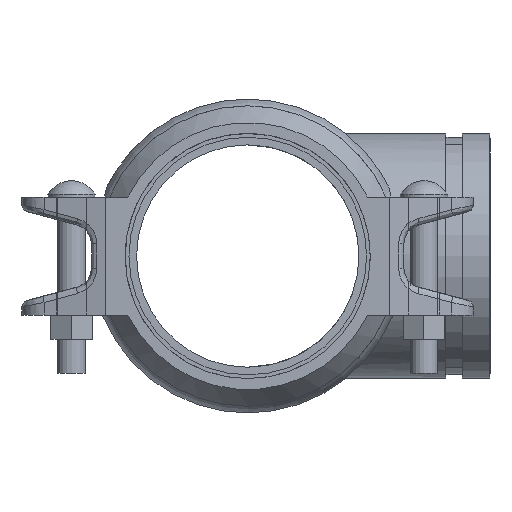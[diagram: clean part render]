
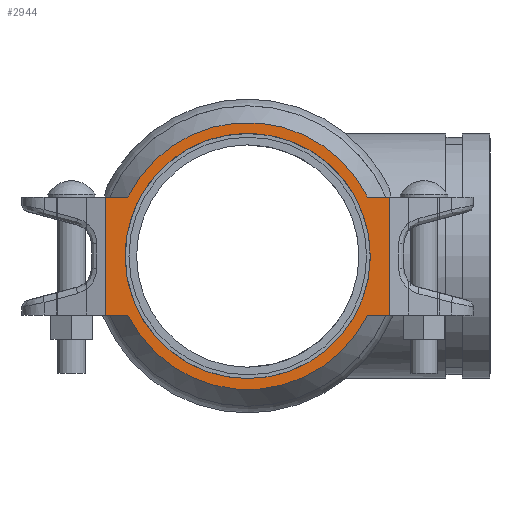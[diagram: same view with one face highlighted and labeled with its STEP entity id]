
A CAD part, left-side view. The second image highlights one B-rep face of the part: STEP entity #2944.
In plain terms, the highlighted planar face has unit normal (-1, 0, 0) as drawn and (0, 0, -1) by its records, which use the part's own axes.
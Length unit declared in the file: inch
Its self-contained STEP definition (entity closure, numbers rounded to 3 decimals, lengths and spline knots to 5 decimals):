
#162=FACE_BOUND('',#557,.T.);
#227=PLANE('',#3356);
#376=FACE_OUTER_BOUND('',#556,.T.);
#556=EDGE_LOOP('',(#2504,#2505,#2506,#2507,#2508,#2509,#2510,#2511));
#557=EDGE_LOOP('',(#2512,#2513));
#610=LINE('',#4741,#787);
#708=LINE('',#5407,#885);
#739=LINE('',#5584,#916);
#743=LINE('',#5630,#920);
#744=LINE('',#5641,#921);
#746=LINE('',#5657,#923);
#787=VECTOR('',#3665,0.3937);
#885=VECTOR('',#4011,0.3937);
#916=VECTOR('',#4114,0.3937);
#920=VECTOR('',#4126,0.3937);
#921=VECTOR('',#4129,0.3937);
#923=VECTOR('',#4133,0.3937);
#1049=CIRCLE('',#3340,3.0315);
#1056=CIRCLE('',#3355,3.0315);
#1057=CIRCLE('',#3357,2.7815);
#1058=CIRCLE('',#3358,2.7815);
#1166=VERTEX_POINT('',#4738);
#1167=VERTEX_POINT('',#4740);
#1297=VERTEX_POINT('',#5404);
#1298=VERTEX_POINT('',#5406);
#1319=VERTEX_POINT('',#5582);
#1321=VERTEX_POINT('',#5592);
#1326=VERTEX_POINT('',#5637);
#1328=VERTEX_POINT('',#5652);
#1333=VERTEX_POINT('',#5711);
#1334=VERTEX_POINT('',#5712);
#1472=EDGE_CURVE('',#1167,#1166,#610,.T.);
#1652=EDGE_CURVE('',#1297,#1298,#708,.T.);
#1702=EDGE_CURVE('',#1297,#1319,#739,.T.);
#1712=EDGE_CURVE('',#1167,#1321,#743,.T.);
#1715=EDGE_CURVE('',#1326,#1166,#744,.T.);
#1720=EDGE_CURVE('',#1328,#1319,#746,.T.);
#1725=EDGE_CURVE('',#1326,#1298,#1049,.T.);
#1732=EDGE_CURVE('',#1328,#1321,#1056,.T.);
#1733=EDGE_CURVE('',#1333,#1334,#1057,.T.);
#1734=EDGE_CURVE('',#1334,#1333,#1058,.T.);
#2504=ORIENTED_EDGE('',*,*,#1732,.T.);
#2505=ORIENTED_EDGE('',*,*,#1712,.F.);
#2506=ORIENTED_EDGE('',*,*,#1472,.T.);
#2507=ORIENTED_EDGE('',*,*,#1715,.F.);
#2508=ORIENTED_EDGE('',*,*,#1725,.T.);
#2509=ORIENTED_EDGE('',*,*,#1652,.F.);
#2510=ORIENTED_EDGE('',*,*,#1702,.T.);
#2511=ORIENTED_EDGE('',*,*,#1720,.F.);
#2512=ORIENTED_EDGE('',*,*,#1733,.F.);
#2513=ORIENTED_EDGE('',*,*,#1734,.F.);
#2944=ADVANCED_FACE('',(#376,#162),#227,.T.);
#3340=AXIS2_PLACEMENT_3D('',#5694,#4140,#4141);
#3355=AXIS2_PLACEMENT_3D('',#5709,#4170,#4171);
#3356=AXIS2_PLACEMENT_3D('',#5710,#4172,#4173);
#3357=AXIS2_PLACEMENT_3D('',#5713,#4174,#4175);
#3358=AXIS2_PLACEMENT_3D('',#5714,#4176,#4177);
#3665=DIRECTION('',(0.,-1.,0.));
#4011=DIRECTION('',(1.,0.,0.));
#4114=DIRECTION('',(0.,1.,0.));
#4126=DIRECTION('',(-1.,0.,0.));
#4129=DIRECTION('',(1.,0.,0.));
#4133=DIRECTION('',(-1.,0.,0.));
#4140=DIRECTION('center_axis',(0.,0.,-1.));
#4141=DIRECTION('ref_axis',(-1.,0.,0.));
#4170=DIRECTION('center_axis',(0.,0.,-1.));
#4171=DIRECTION('ref_axis',(-1.,0.,0.));
#4172=DIRECTION('center_axis',(0.,0.,-1.));
#4173=DIRECTION('ref_axis',(1.,0.,0.));
#4174=DIRECTION('center_axis',(0.,0.,-1.));
#4175=DIRECTION('ref_axis',(-1.,0.,0.));
#4176=DIRECTION('center_axis',(0.,0.,-1.));
#4177=DIRECTION('ref_axis',(-1.,0.,0.));
#4738=CARTESIAN_POINT('',(3.225,-1.34,-1.125));
#4740=CARTESIAN_POINT('',(3.225,1.34,-1.125));
#4741=CARTESIAN_POINT('',(3.225,0.,-1.125));
#5404=CARTESIAN_POINT('',(-3.225,-1.34,-1.125));
#5406=CARTESIAN_POINT('',(-2.71926,-1.34,-1.125));
#5407=CARTESIAN_POINT('',(3.225,-1.34,-1.125));
#5582=CARTESIAN_POINT('',(-3.225,1.34,-1.125));
#5584=CARTESIAN_POINT('',(-3.225,0.,-1.125));
#5592=CARTESIAN_POINT('',(2.71926,1.34,-1.125));
#5630=CARTESIAN_POINT('',(3.225,1.34,-1.125));
#5637=CARTESIAN_POINT('',(2.71926,-1.34,-1.125));
#5641=CARTESIAN_POINT('',(3.225,-1.34,-1.125));
#5652=CARTESIAN_POINT('',(-2.71926,1.34,-1.125));
#5657=CARTESIAN_POINT('',(3.225,1.34,-1.125));
#5694=CARTESIAN_POINT('Origin',(0.,0.,-1.125));
#5709=CARTESIAN_POINT('Origin',(0.,0.,-1.125));
#5710=CARTESIAN_POINT('Origin',(0.,-2.7815,-1.125));
#5711=CARTESIAN_POINT('',(2.43745,-1.34,-1.125));
#5712=CARTESIAN_POINT('',(0.,2.7815,-1.125));
#5713=CARTESIAN_POINT('Origin',(0.,0.,-1.125));
#5714=CARTESIAN_POINT('Origin',(0.,0.,-1.125));
